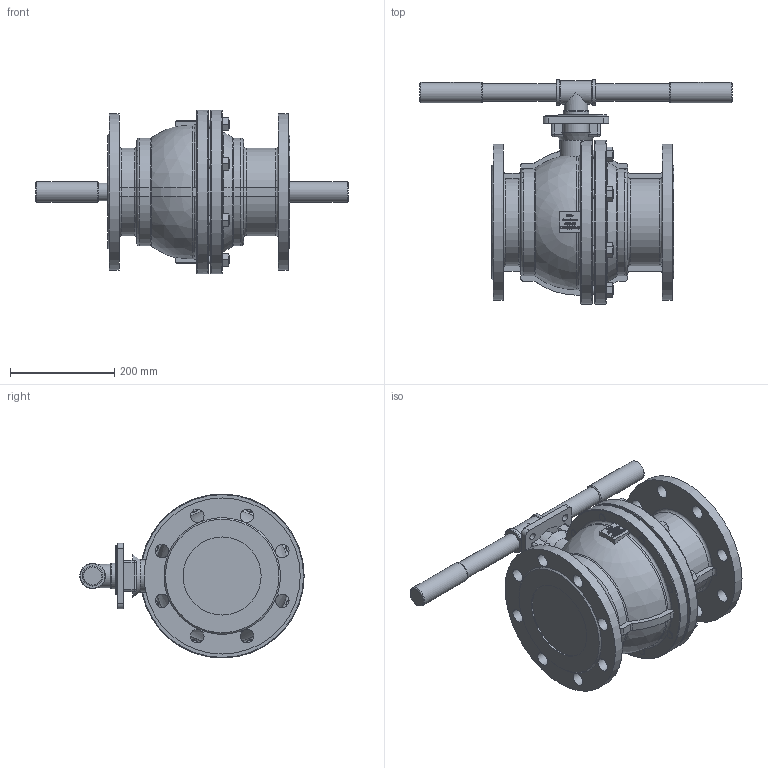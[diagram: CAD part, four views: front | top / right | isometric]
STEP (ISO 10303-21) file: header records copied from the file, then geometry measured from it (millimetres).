
FILE_DESCRIPTION((''),'2;1');
FILE_NAME('K:\Inventor\1 Artikel\12) Flanschen-Kugelhähne\12a) manuell\Econosto\465-GS, PN40, 7249\465-GS, DN150\465-GS, DN150, 3D\465-GS, DN150, PN40, HH, 3D.stp','2019-11-25T15:29:25',('claudia'),(''),'Autodesk Inventor 2013','Autodesk Inventor 2013','');
FILE_SCHEMA(('AUTOMOTIVE_DESIGN { 1 0 10303 214 1 1 1 1 }'));
Length unit declared in the file: millimetre
Products named in the file (1): Bauteil15
Bounding box: 600 x 430.85 x 315 mm (x, y, z)
Volume: 16377756.8 mm3; surface area: 809060.8 mm2
Topology: 1 solids, 1 shells, 1731 faces, 4775 edges, 3163 vertices
Faces by surface type: plane 850, bspline 636, cylinder 162, torus 40, cone 35, sphere 8
Full cylindrical faces by diameter (mm): 13 x1, 14 x4, 16 x16, 17 x8, 26 x16, 34 x2, 39 x2, 45 x2, 49 x3, 50 x1, 62 x1, 80 x1, 150 x2, 259.786 x1, 300 x2, 315 x1
Entity records: 115830 total; most frequent: CARTESIAN_POINT 77270, ORIENTED_EDGE 9050, DIRECTION 5558, EDGE_CURVE 4525, VERTEX_POINT 3061, VECTOR 2454, LINE 2454, EDGE_LOOP 2042
